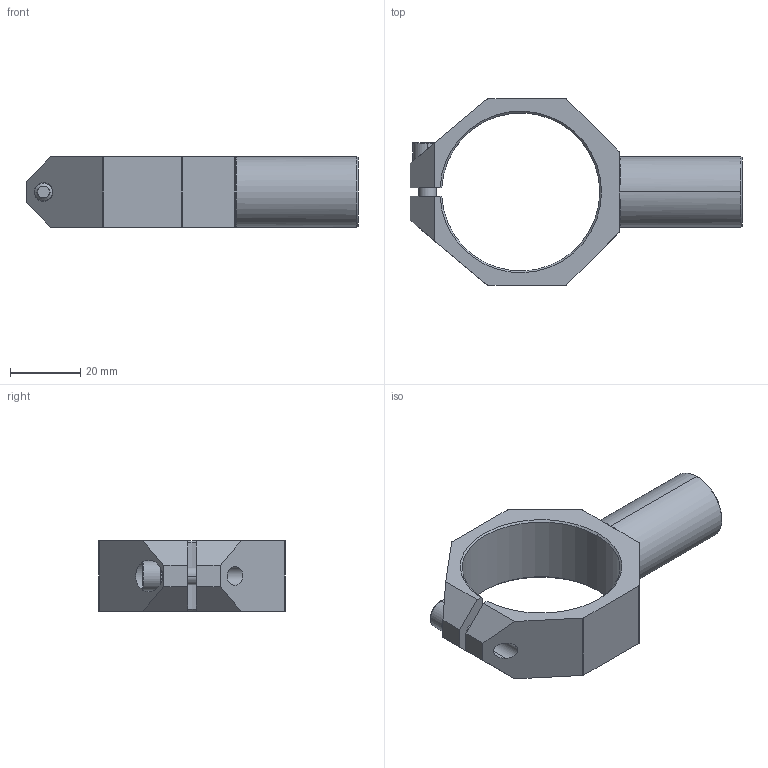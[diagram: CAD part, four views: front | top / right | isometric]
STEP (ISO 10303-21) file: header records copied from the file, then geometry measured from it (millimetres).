
FILE_DESCRIPTION (( 'STEP AP214' ), '1' );
FILE_NAME ('SCE-NR20T.STEP', '2023-01-12T09:15:11', ( 'Windows User' ), ( 'P R C' ), 'SwSTEP 2.0', 'SolidWorks 2019', '' );
FILE_SCHEMA (( 'AUTOMOTIVE_DESIGN' ));
Length unit declared in the file: millimetre
Products named in the file (1): SCE-NR20T
Bounding box: 94.5 x 53 x 20 mm (x, y, z)
Volume: 23037.6 mm3; surface area: 12717.5 mm2
Topology: 3 solids, 3 shells, 268 faces, 761 edges, 495 vertices
Faces by surface type: plane 222, cylinder 26, cone 11, bspline 9
Entity records: 12610 total; most frequent: CARTESIAN_POINT 2522, ORIENTED_EDGE 1510, DIRECTION 1498, EDGE_CURVE 755, AXIS2_PLACEMENT_3D 505, VERTEX_POINT 495, VECTOR 488, LINE 488
